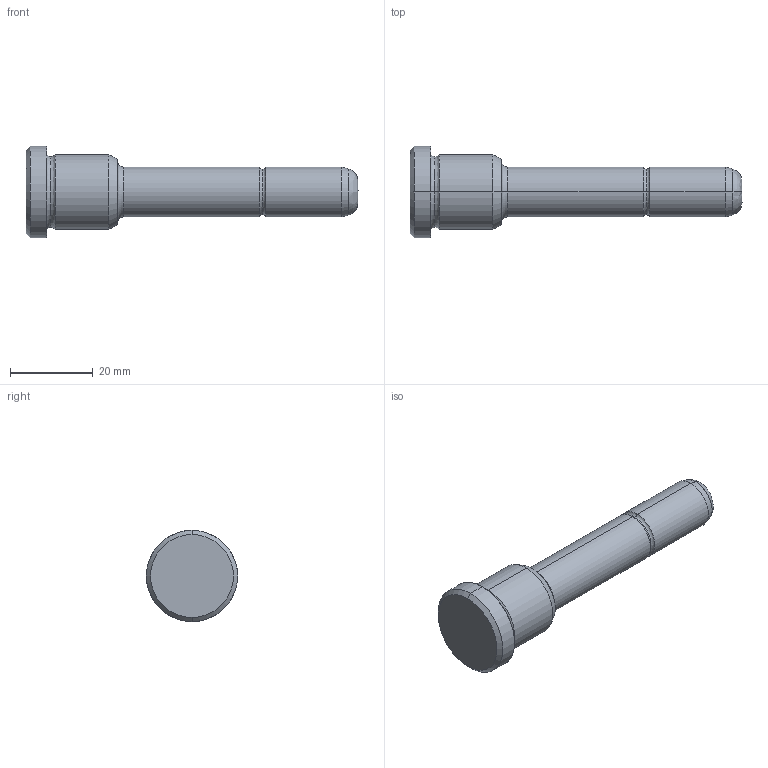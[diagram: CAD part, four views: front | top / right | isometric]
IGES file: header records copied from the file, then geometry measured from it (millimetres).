
Start section: START RECORD GO HERE.
Global section: file name: 351-12X22X80.igs; native system: DASSAULT SYSTEMES CATIA V5 R20 - www.3ds.com; preprocessor: CATIA Version 5 Release 20 ; author: Utente; organization: NB04-ASUS; date: 20210817.134723; units: millimetre
Bounding box: 80 x 22 x 22 mm (x, y, z)
Surface area: 4093.6 mm2 (no closed solid volume)
Topology: 0 solids, 0 shells, 30 faces, 172 edges, 172 vertices
Faces by surface type: revolution 24, plane 4, bspline 2
